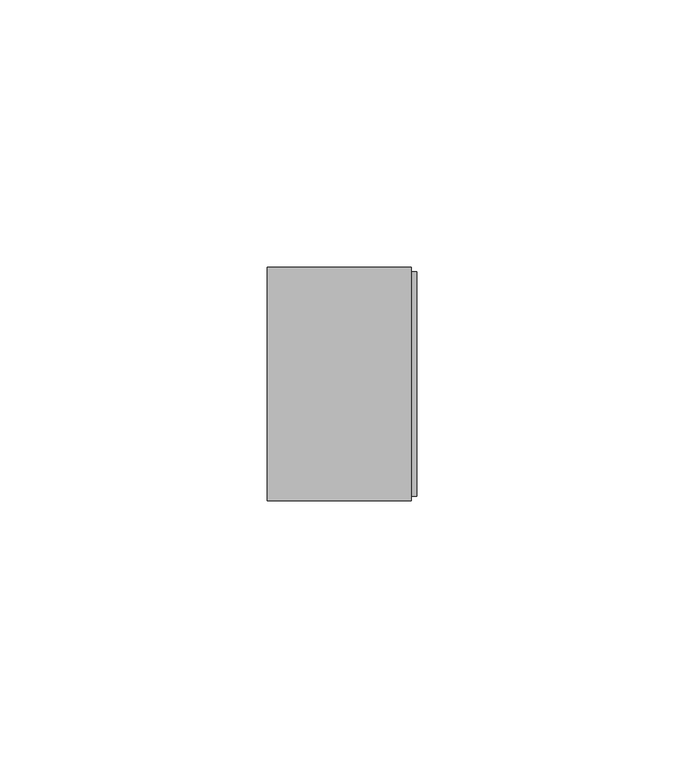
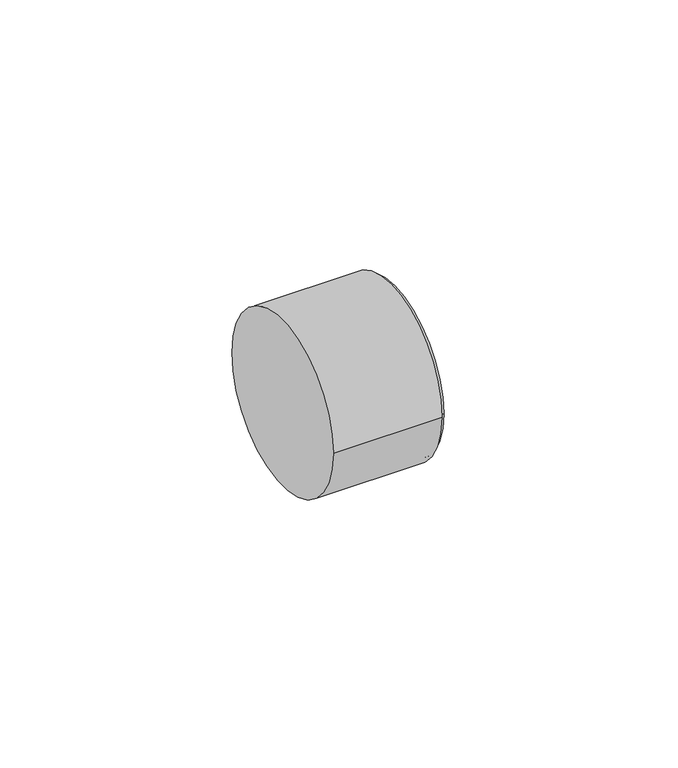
"""IFC4 building model written with IfcOpenShell, lengths in millimetres: pipe fitting geometry, Bucha de redução reta - Soldada - CU : Padrão."""

from ifc_helpers import new_model, si_unit, frame, origin, place, context, project, spatial, circle_curve, source, transform, mapped, element, save
from ifc_brep_helpers import plane_surface, cylinder_surface, advanced_brep


def pipe_fitting_d513b082(model_context):
    return source(origin(), model_context, "Body", "AdvancedBrep", [
        advanced_brep(
        [(0.0, -21.86, 0.0), (0.0, 21.86, 0.0), (27.0, -21.86, 0.0), (27.0, 21.86, 0.0), (27.0, -20.965, 0.0), (27.0, 20.965, 0.0), (28.0, -20.965, 0.0), (28.0, 20.965, 0.0)],
        [
            (0, 1, circle_curve(frame((0.0, 0.0, 0.0), z_axis=(-1.0, 0.0, 0.0), x_axis=(0.0, 1.0, 0.0)), 21.86)),
            (1, 0, circle_curve(frame((0.0, 0.0, 0.0), z_axis=(-1.0, 0.0, 0.0), x_axis=(0.0, 1.0, 0.0)), 21.86)),
            (2, 3, circle_curve(frame((27.0, 0.0, 0.0), z_axis=(1.0, 0.0, 0.0), x_axis=(0.0, 1.0, 0.0)), 21.86)),
            (3, 2, circle_curve(frame((27.0, 0.0, 0.0), z_axis=(1.0, 0.0, 0.0), x_axis=(0.0, 1.0, 0.0)), 21.86)),
            (4, 5, circle_curve(frame((27.0, 0.0, 0.0), z_axis=(-1.0, 0.0, 0.0), x_axis=(0.0, 1.0, 0.0)), 20.965)),
            (5, 4, circle_curve(frame((27.0, 0.0, 0.0), z_axis=(-1.0, 0.0, 0.0), x_axis=(0.0, 1.0, 0.0)), 20.965)),
            (0, 2),
            (3, 1),
            (6, 7, circle_curve(frame((28.0, 0.0, 0.0), z_axis=(1.0, 0.0, 0.0), x_axis=(0.0, 1.0, 0.0)), 20.965)),
            (7, 6, circle_curve(frame((28.0, 0.0, 0.0), z_axis=(1.0, 0.0, 0.0), x_axis=(0.0, 1.0, 0.0)), 20.965)),
            (7, 5),
            (4, 6),
        ],
        [
            plane_surface(frame((0.0, 0.0, 0.0), z_axis=(-1.0, 0.0, 0.0), x_axis=(0.0, 0.0, 1.0))),
            plane_surface(frame((27.0, 0.0, 0.0), z_axis=(1.0, 0.0, 0.0), x_axis=(0.0, 0.0, 1.0))),
            cylinder_surface(frame((0.0, 0.0, 0.0), z_axis=(-1.0, 0.0, 0.0), x_axis=(0.0, 1.0, 0.0)), 21.86),
            plane_surface(frame((28.0, 0.0, 0.0), z_axis=(1.0, 0.0, 0.0), x_axis=(0.0, 0.0, 1.0))),
            cylinder_surface(frame((27.0, 0.0, 0.0), z_axis=(-1.0, 0.0, 0.0), x_axis=(0.0, 1.0, 0.0)), 20.965),
        ],
        [
            (0, [[1, 2]]),
            (1, [[3, 4], [5, 6]]),
            (2, [[-1, 7, -4, 8]]),
            (2, [[-2, -8, -3, -7]]),
            (3, [[9, 10]]),
            (4, [[-10, 11, -5, 12]]),
            (4, [[-9, -12, -6, -11]]),
        ],
    ),
    ])


if __name__ == "__main__":
    model = new_model("IFC4")
    model_context = context("Model", 3, world=origin())
    ifc_project = project(units=[si_unit("LENGTHUNIT", "METRE", prefix="MILLI")], contexts=[model_context])
    site = spatial("IfcSite", under=ifc_project)
    building = spatial("IfcBuilding", under=site)
    placement = place(None, origin())
    pipe_fitting_shape = pipe_fitting_d513b082(model_context)
    element("IfcPipeFitting", 1, ObjectType="Bucha de redução reta - Soldada - CU : Padrão", at=placement, inside=building, context=model_context, shape_type="MappedRepresentation", body=[
        mapped(pipe_fitting_shape, transform((0.0, 0.0, 0.0), x_axis=(1.0, 0.0, 0.0), y_axis=(0.0, 1.0, 0.0), z_axis=(0.0, 0.0, 1.0))),
    ])
    save(model, "model.ifc")
